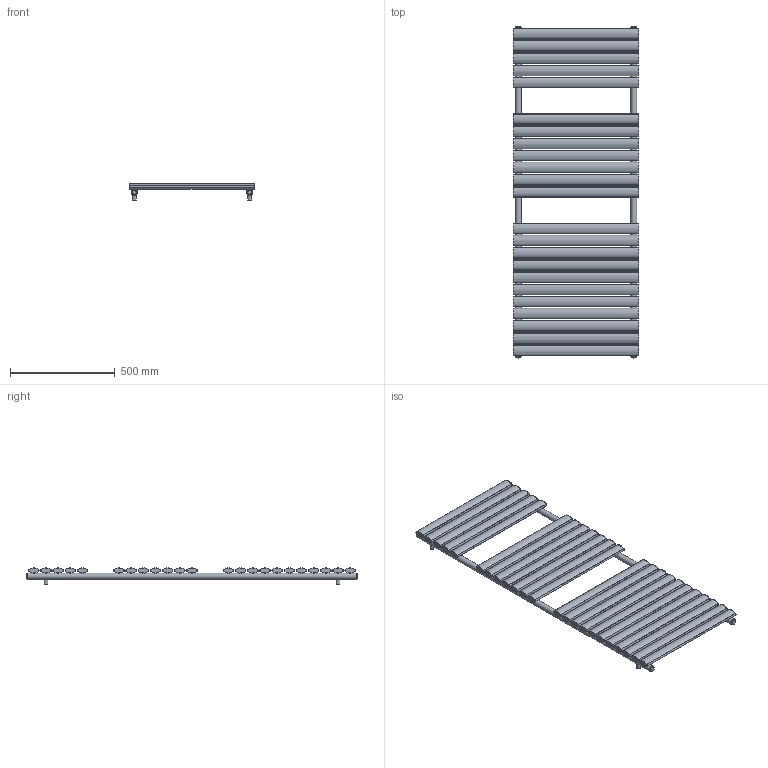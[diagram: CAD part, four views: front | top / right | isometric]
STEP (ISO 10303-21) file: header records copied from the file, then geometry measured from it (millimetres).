
FILE_DESCRIPTION(/* description */ (''),/* implementation_level */ '2;1');
FILE_NAME(/* name */ 'C:\Grzejniki\13DLUXRAD\łazienkowe\NEO\NEO 1570x600.iam.stp',/* time_stamp */ '2016-06-28T17:35:32+02:00',/* author */ ('m.szydziak'),/* organization */ (''),/* preprocessor_version */ 'ST-DEVELOPER v16.5',/* originating_system */ 'Autodesk Inventor 2017',/* authorisation */ '');
FILE_SCHEMA (('AUTOMOTIVE_DESIGN { 1 0 10303 214 3 1 1 }'));
Length unit declared in the file: millimetre
Products named in the file (6): NEO 1570x600; fi30x1,5x1570v2; 50x25x1,2x600; zaślepka fi30 G0,5inch; uchwyt stały; korek
Assembly tree (37 placements, depth 2):
  NEO 1570x600
    fi30x1,5x1570v2  x2
    50x25x1,2x600  x23
    zaślepka fi30 G0,5inch  x4
    uchwyt stały  x4
    korek  x4
Bounding box: 600 x 1582 x 76.86 mm (x, y, z)
Volume: 2415910.9 mm3; surface area: 3876186.3 mm2
Topology: 37 solids, 37 shells, 468 faces, 1232 edges, 884 vertices
Faces by surface type: cylinder 300, plane 168
Full cylindrical faces by diameter (mm): 5 x46, 5.8 x46, 15 x4, 18 x4, 18.631 x4, 24 x4, 27 x6, 30 x2
Entity records: 4015 total; most frequent: CARTESIAN_POINT 2083, DIRECTION 328, ORIENTED_EDGE 296, EDGE_LOOP 152, EDGE_CURVE 148, AXIS2_PLACEMENT_3D 148, VERTEX_POINT 128, FACE_BOUND 88
